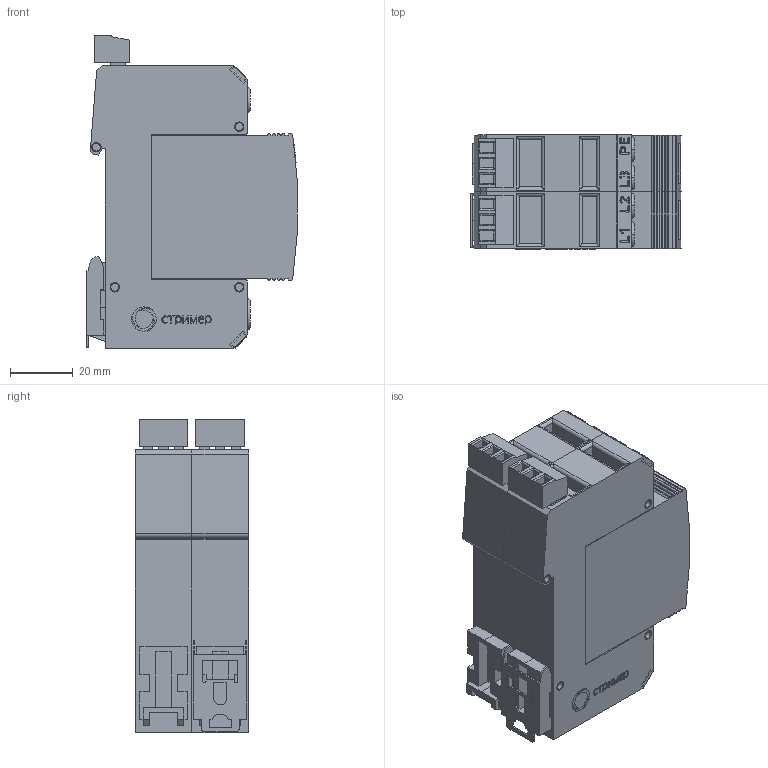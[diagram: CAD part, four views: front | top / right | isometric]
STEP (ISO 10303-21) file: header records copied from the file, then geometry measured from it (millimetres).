
FILE_DESCRIPTION(('TFLEX Exchange Step'),'2;1');
FILE_NAME('X2\041004400442\X0\.124.103.stp', '2022-08-01T13:44:41+03:00',('Pavel Oborin'),('Unknown organisation'),'TFLEX Exchange 2019.2','T-FLEX CAD','Unknown authorisation');
FILE_SCHEMA( ('AUTOMOTIVE_DESIGN { 1 0 10303 214 1 1 1 1 }') );
Length unit declared in the file: millimetre
Products named in the file (21): 0; Буква L1L2L3PE; Планка; Сигнализация:8; Сигнализация:5; буква N:4; буква N:3; ВНЕШНИЙ МОДУЛЬ 18 без ушек:2; Корпус 18 3 контакта:24; Корпус 18 3 контакта:23; Корпус 18 3 контакта:22; Корпус 18 3 контакта:21; Корпус 18 3 контакта:20; Корпус 18 3 контакта:19; Корпус 18 3 контакта:18; Корпус 18 3 контакта:17; Корпус 18 3 контакта:16; Корпус 18 3 контакта:15; Корпус 18 3 контакта:14; Корпус 18 3 контакта:13; Арт.124.103
Assembly tree (41 placements, depth 2):
  Арт.124.103
    0
    Буква L1L2L3PE
    Планка
    Сигнализация:8  x6
    Сигнализация:5  x2
    буква N:4  x2
    буква N:3  x2
    ВНЕШНИЙ МОДУЛЬ 18 без ушек:2  x2
    Корпус 18 3 контакта:24  x2
    Корпус 18 3 контакта:23  x2
    Корпус 18 3 контакта:22  x2
    Корпус 18 3 контакта:21  x2
    Корпус 18 3 контакта:20  x2
    Корпус 18 3 контакта:19  x2
    Корпус 18 3 контакта:18  x2
    Корпус 18 3 контакта:17  x2
    Корпус 18 3 контакта:16  x2
    Корпус 18 3 контакта:15  x2
    Корпус 18 3 контакта:14  x2
    Корпус 18 3 контакта:13  x2
Bounding box: 66.98 x 36.1 x 99.68 mm (x, y, z)
Volume: 175283.6 mm3; surface area: 50194.5 mm2
Topology: 70 solids, 70 shells, 1104 faces, 2666 edges, 1746 vertices
Faces by surface type: plane 702, cylinder 249, bspline 129, torus 18, cone 6
Full cylindrical faces by diameter (mm): 1.6 x6, 3 x6
Entity records: 22875 total; most frequent: CARTESIAN_POINT 7380, ORIENTED_EDGE 3162, DIRECTION 2856, EDGE_CURVE 1581, VECTOR 1136, LINE 1136, VERTEX_POINT 1038, AXIS2_PLACEMENT_3D 860
